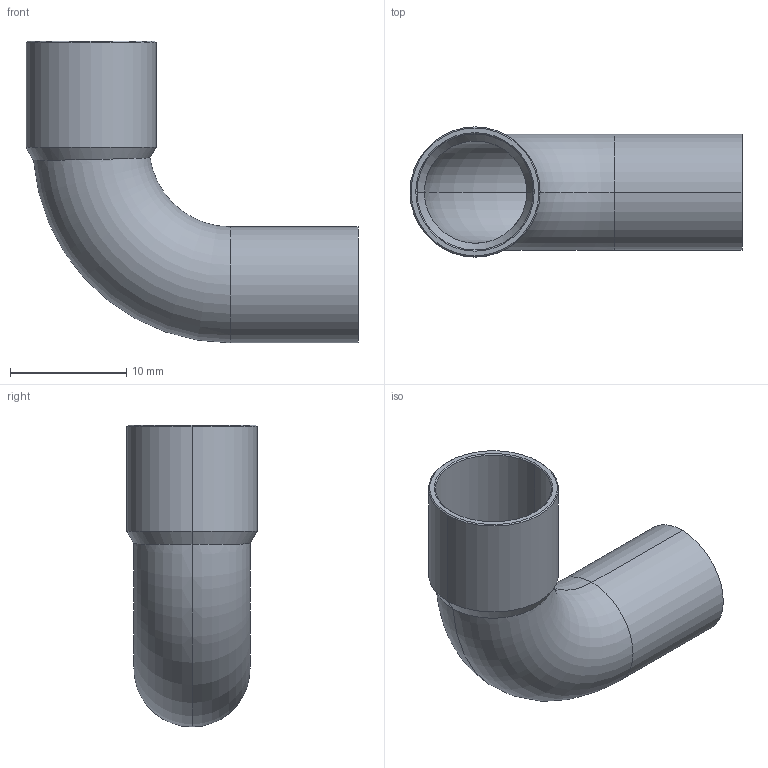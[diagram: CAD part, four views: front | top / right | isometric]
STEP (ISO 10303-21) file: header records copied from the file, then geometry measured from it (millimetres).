
FILE_DESCRIPTION((''),'2;1');
FILE_NAME('P:\Bouwmaten\z-maattekeningen 3D\5000\5001a\15001a10.stp','2005-10-04T14:19:30',('Kris'),(''),'Autodesk Inventor 8','Autodesk Inventor 8','');
FILE_SCHEMA(('AUTOMOTIVE_DESIGN { 1 0 10303 214 1 1 1 1 }'));
Length unit declared in the file: millimetre
Products named in the file (1): 15001a10
Bounding box: 28.6 x 11.2 x 26 mm (x, y, z)
Volume: 712.7 mm3; surface area: 2410.6 mm2
Topology: 1 solids, 1 shells, 22 faces, 46 edges, 26 vertices
Faces by surface type: cone 8, cylinder 8, torus 4, plane 2
Entity records: 679 total; most frequent: CARTESIAN_POINT 171, DIRECTION 114, ORIENTED_EDGE 92, AXIS2_PLACEMENT_3D 49, EDGE_CURVE 46, VERTEX_POINT 26, CIRCLE 26, EDGE_LOOP 24
